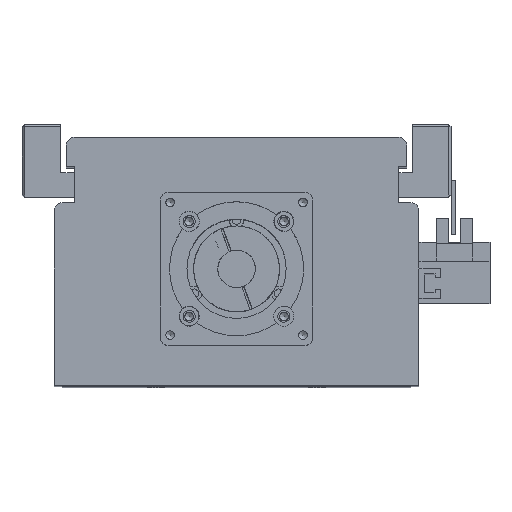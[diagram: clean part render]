
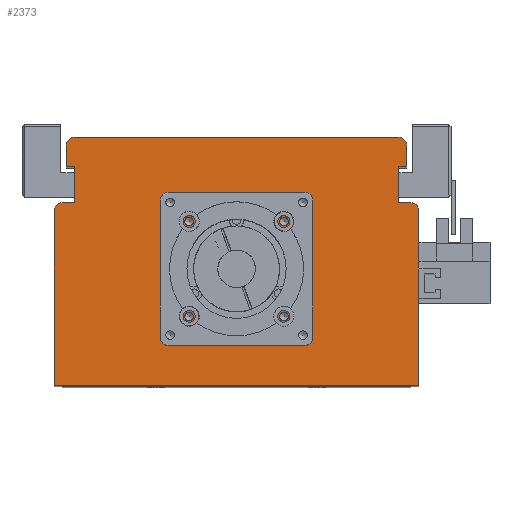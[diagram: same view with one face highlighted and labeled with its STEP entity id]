
A CAD part, top view. The second image highlights one B-rep face of the part: STEP entity #2373.
In plain terms, the highlighted planar face has unit normal (0, 0, 1).
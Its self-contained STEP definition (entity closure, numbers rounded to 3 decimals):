
#931=CARTESIAN_POINT('',(19.321,61.5,295.));
#932=VERTEX_POINT('',#931);
#933=CARTESIAN_POINT('',(17.7,61.5,295.));
#934=DIRECTION('',(0.0,0.0,-1.0));
#935=DIRECTION('',(1.0,0.0,0.0));
#936=AXIS2_PLACEMENT_3D('',#933,#934,#935);
#937=CIRCLE('',#936,1.621);
#938=EDGE_CURVE('',#932,#932,#937,.T.);
#1010=CARTESIAN_POINT('',(19.321,26.1,295.));
#1011=VERTEX_POINT('',#1010);
#1012=CARTESIAN_POINT('',(17.7,26.1,295.));
#1013=DIRECTION('',(0.0,0.0,-1.0));
#1014=DIRECTION('',(1.0,0.0,0.0));
#1015=AXIS2_PLACEMENT_3D('',#1012,#1013,#1014);
#1016=CIRCLE('',#1015,1.621);
#1017=EDGE_CURVE('',#1011,#1011,#1016,.T.);
#1089=CARTESIAN_POINT('',(-16.079,26.1,295.));
#1090=VERTEX_POINT('',#1089);
#1091=CARTESIAN_POINT('',(-17.7,26.1,295.));
#1092=DIRECTION('',(0.0,0.0,-1.0));
#1093=DIRECTION('',(1.0,0.0,0.0));
#1094=AXIS2_PLACEMENT_3D('',#1091,#1092,#1093);
#1095=CIRCLE('',#1094,1.621);
#1096=EDGE_CURVE('',#1090,#1090,#1095,.T.);
#1168=CARTESIAN_POINT('',(-16.079,61.5,295.));
#1169=VERTEX_POINT('',#1168);
#1170=CARTESIAN_POINT('',(-17.7,61.5,295.));
#1171=DIRECTION('',(0.0,0.0,-1.0));
#1172=DIRECTION('',(1.0,0.0,0.0));
#1173=AXIS2_PLACEMENT_3D('',#1170,#1171,#1172);
#1174=CIRCLE('',#1173,1.621);
#1175=EDGE_CURVE('',#1169,#1169,#1174,.T.);
#1209=CARTESIAN_POINT('',(26.5,43.8,295.));
#1210=VERTEX_POINT('',#1209);
#1211=CARTESIAN_POINT('',(24.5,43.8,295.));
#1212=DIRECTION('',(0.0,0.0,-1.0));
#1213=DIRECTION('',(1.0,0.0,0.0));
#1214=AXIS2_PLACEMENT_3D('',#1211,#1212,#1213);
#1215=CIRCLE('',#1214,2.0);
#1216=EDGE_CURVE('',#1210,#1210,#1215,.T.);
#1258=CARTESIAN_POINT('',(-22.5,43.8,295.));
#1259=VERTEX_POINT('',#1258);
#1260=CARTESIAN_POINT('',(-24.5,43.8,295.));
#1261=DIRECTION('',(0.0,0.0,-1.0));
#1262=DIRECTION('',(1.0,0.0,0.0));
#1263=AXIS2_PLACEMENT_3D('',#1260,#1261,#1262);
#1264=CIRCLE('',#1263,2.0);
#1265=EDGE_CURVE('',#1259,#1259,#1264,.T.);
#2189=CARTESIAN_POINT('',(21.05,43.8,295.));
#2190=VERTEX_POINT('',#2189);
#2191=CARTESIAN_POINT('',(0.0,43.8,295.));
#2192=DIRECTION('',(0.0,0.0,-1.0));
#2193=DIRECTION('',(-1.0,0.0,0.0));
#2194=AXIS2_PLACEMENT_3D('',#2191,#2192,#2193);
#2195=CIRCLE('',#2194,21.05);
#2196=EDGE_CURVE('',#2190,#2190,#2195,.T.);
#2213=CARTESIAN_POINT('',(0.,29.533,295.));
#2214=DIRECTION('',(0.0,0.0,1.0));
#2215=DIRECTION('',(1.0,0.0,0.0));
#2216=AXIS2_PLACEMENT_3D('',#2213,#2214,#2215);
#2217=PLANE('',#2216);
#2218=CARTESIAN_POINT('',(-65.,68.5,295.));
#2219=VERTEX_POINT('',#2218);
#2220=CARTESIAN_POINT('',(-60.5,68.5,295.0));
#2221=VERTEX_POINT('',#2220);
#2222=CARTESIAN_POINT('',(-65.,68.5,295.));
#2223=DIRECTION('',(1.0,0.0,0.0));
#2224=VECTOR('',#2223,4.5);
#2225=LINE('',#2222,#2224);
#2226=EDGE_CURVE('',#2219,#2221,#2225,.T.);
#2227=ORIENTED_EDGE('',*,*,#2226,.F.);
#2228=CARTESIAN_POINT('',(-68.,65.5,295.));
#2229=VERTEX_POINT('',#2228);
#2230=CARTESIAN_POINT('',(-65.,65.5,295.0));
#2231=DIRECTION('',(0.0,0.0,-1.0));
#2232=DIRECTION('',(0.0,1.0,0.0));
#2233=AXIS2_PLACEMENT_3D('',#2230,#2231,#2232);
#2234=CIRCLE('',#2233,3.);
#2235=EDGE_CURVE('',#2229,#2219,#2234,.T.);
#2236=ORIENTED_EDGE('',*,*,#2235,.F.);
#2237=CARTESIAN_POINT('',(-68.0,0.5,295.));
#2238=VERTEX_POINT('',#2237);
#2239=CARTESIAN_POINT('',(-68.0,0.5,295.));
#2240=DIRECTION('',(0.0,1.0,0.0));
#2241=VECTOR('',#2240,65.0);
#2242=LINE('',#2239,#2241);
#2243=EDGE_CURVE('',#2238,#2229,#2242,.T.);
#2244=ORIENTED_EDGE('',*,*,#2243,.F.);
#2245=CARTESIAN_POINT('',(68.0,0.5,295.));
#2246=VERTEX_POINT('',#2245);
#2247=CARTESIAN_POINT('',(68.0,0.5,295.));
#2248=DIRECTION('',(-1.0,0.0,0.0));
#2249=VECTOR('',#2248,136.0);
#2250=LINE('',#2247,#2249);
#2251=EDGE_CURVE('',#2246,#2238,#2250,.T.);
#2252=ORIENTED_EDGE('',*,*,#2251,.F.);
#2253=CARTESIAN_POINT('',(68.0,65.5,295.));
#2254=VERTEX_POINT('',#2253);
#2255=CARTESIAN_POINT('',(68.0,65.5,295.));
#2256=DIRECTION('',(0.0,-1.0,0.0));
#2257=VECTOR('',#2256,65.0);
#2258=LINE('',#2255,#2257);
#2259=EDGE_CURVE('',#2254,#2246,#2258,.T.);
#2260=ORIENTED_EDGE('',*,*,#2259,.F.);
#2261=CARTESIAN_POINT('',(65.,68.5,295.));
#2262=VERTEX_POINT('',#2261);
#2263=CARTESIAN_POINT('',(65.,65.5,295.0));
#2264=DIRECTION('',(0.0,0.0,-1.0));
#2265=DIRECTION('',(1.0,0.0,0.0));
#2266=AXIS2_PLACEMENT_3D('',#2263,#2264,#2265);
#2267=CIRCLE('',#2266,3.);
#2268=EDGE_CURVE('',#2262,#2254,#2267,.T.);
#2269=ORIENTED_EDGE('',*,*,#2268,.F.);
#2270=CARTESIAN_POINT('',(60.5,68.5,295.0));
#2271=VERTEX_POINT('',#2270);
#2272=CARTESIAN_POINT('',(60.5,68.5,295.0));
#2273=DIRECTION('',(1.0,0.0,0.0));
#2274=VECTOR('',#2273,4.5);
#2275=LINE('',#2272,#2274);
#2276=EDGE_CURVE('',#2271,#2262,#2275,.T.);
#2277=ORIENTED_EDGE('',*,*,#2276,.F.);
#2278=CARTESIAN_POINT('',(60.5,82.,295.));
#2279=VERTEX_POINT('',#2278);
#2280=CARTESIAN_POINT('',(60.5,82.,295.));
#2281=DIRECTION('',(0.0,-1.0,0.0));
#2282=VECTOR('',#2281,13.5);
#2283=LINE('',#2280,#2282);
#2284=EDGE_CURVE('',#2279,#2271,#2283,.T.);
#2285=ORIENTED_EDGE('',*,*,#2284,.F.);
#2286=CARTESIAN_POINT('',(63.5,82.,295.));
#2287=VERTEX_POINT('',#2286);
#2288=CARTESIAN_POINT('',(63.5,82.,295.));
#2289=DIRECTION('',(-1.0,0.0,0.0));
#2290=VECTOR('',#2289,3.0);
#2291=LINE('',#2288,#2290);
#2292=EDGE_CURVE('',#2287,#2279,#2291,.T.);
#2293=ORIENTED_EDGE('',*,*,#2292,.F.);
#2294=CARTESIAN_POINT('',(63.5,90.0,295.));
#2295=VERTEX_POINT('',#2294);
#2296=CARTESIAN_POINT('',(63.5,90.0,295.));
#2297=DIRECTION('',(0.0,-1.0,0.0));
#2298=VECTOR('',#2297,8.);
#2299=LINE('',#2296,#2298);
#2300=EDGE_CURVE('',#2295,#2287,#2299,.T.);
#2301=ORIENTED_EDGE('',*,*,#2300,.F.);
#2302=CARTESIAN_POINT('',(60.5,93.,295.));
#2303=VERTEX_POINT('',#2302);
#2304=CARTESIAN_POINT('',(60.5,90.0,295.0));
#2305=DIRECTION('',(0.0,0.0,-1.0));
#2306=DIRECTION('',(1.0,0.0,0.0));
#2307=AXIS2_PLACEMENT_3D('',#2304,#2305,#2306);
#2308=CIRCLE('',#2307,3.);
#2309=EDGE_CURVE('',#2303,#2295,#2308,.T.);
#2310=ORIENTED_EDGE('',*,*,#2309,.F.);
#2311=CARTESIAN_POINT('',(-60.5,93.0,295.));
#2312=VERTEX_POINT('',#2311);
#2313=CARTESIAN_POINT('',(-60.5,93.0,295.));
#2314=DIRECTION('',(1.0,0.0,0.0));
#2315=VECTOR('',#2314,121.0);
#2316=LINE('',#2313,#2315);
#2317=EDGE_CURVE('',#2312,#2303,#2316,.T.);
#2318=ORIENTED_EDGE('',*,*,#2317,.F.);
#2319=CARTESIAN_POINT('',(-63.5,90.0,295.));
#2320=VERTEX_POINT('',#2319);
#2321=CARTESIAN_POINT('',(-60.5,90.0,295.0));
#2322=DIRECTION('',(0.0,0.0,-1.0));
#2323=DIRECTION('',(0.0,1.0,0.0));
#2324=AXIS2_PLACEMENT_3D('',#2321,#2322,#2323);
#2325=CIRCLE('',#2324,3.);
#2326=EDGE_CURVE('',#2320,#2312,#2325,.T.);
#2327=ORIENTED_EDGE('',*,*,#2326,.F.);
#2328=CARTESIAN_POINT('',(-63.5,82.,295.));
#2329=VERTEX_POINT('',#2328);
#2330=CARTESIAN_POINT('',(-63.5,82.,295.));
#2331=DIRECTION('',(0.0,1.0,0.0));
#2332=VECTOR('',#2331,8.);
#2333=LINE('',#2330,#2332);
#2334=EDGE_CURVE('',#2329,#2320,#2333,.T.);
#2335=ORIENTED_EDGE('',*,*,#2334,.F.);
#2336=CARTESIAN_POINT('',(-60.5,82.,295.));
#2337=VERTEX_POINT('',#2336);
#2338=CARTESIAN_POINT('',(-60.5,82.,295.));
#2339=DIRECTION('',(-1.0,0.0,0.0));
#2340=VECTOR('',#2339,3.);
#2341=LINE('',#2338,#2340);
#2342=EDGE_CURVE('',#2337,#2329,#2341,.T.);
#2343=ORIENTED_EDGE('',*,*,#2342,.F.);
#2344=CARTESIAN_POINT('',(-60.5,68.5,295.0));
#2345=DIRECTION('',(0.0,1.0,0.0));
#2346=VECTOR('',#2345,13.5);
#2347=LINE('',#2344,#2346);
#2348=EDGE_CURVE('',#2221,#2337,#2347,.T.);
#2349=ORIENTED_EDGE('',*,*,#2348,.F.);
#2350=EDGE_LOOP('',(#2227,#2236,#2244,#2252,#2260,#2269,#2277,#2285,#2293,#2301,#2310,#2318,#2327,#2335,#2343,#2349));
#2351=FACE_OUTER_BOUND('',#2350,.T.);
#2352=ORIENTED_EDGE('',*,*,#938,.T.);
#2353=EDGE_LOOP('',(#2352));
#2354=FACE_BOUND('',#2353,.T.);
#2355=ORIENTED_EDGE('',*,*,#1017,.T.);
#2356=EDGE_LOOP('',(#2355));
#2357=FACE_BOUND('',#2356,.T.);
#2358=ORIENTED_EDGE('',*,*,#1096,.T.);
#2359=EDGE_LOOP('',(#2358));
#2360=FACE_BOUND('',#2359,.T.);
#2361=ORIENTED_EDGE('',*,*,#1175,.T.);
#2362=EDGE_LOOP('',(#2361));
#2363=FACE_BOUND('',#2362,.T.);
#2364=ORIENTED_EDGE('',*,*,#1216,.T.);
#2365=EDGE_LOOP('',(#2364));
#2366=FACE_BOUND('',#2365,.T.);
#2367=ORIENTED_EDGE('',*,*,#1265,.T.);
#2368=EDGE_LOOP('',(#2367));
#2369=FACE_BOUND('',#2368,.T.);
#2370=ORIENTED_EDGE('',*,*,#2196,.T.);
#2371=EDGE_LOOP('',(#2370));
#2372=FACE_BOUND('',#2371,.T.);
#2373=ADVANCED_FACE('',(#2351,#2354,#2357,#2360,#2363,#2366,#2369,#2372),#2217,.T.);
